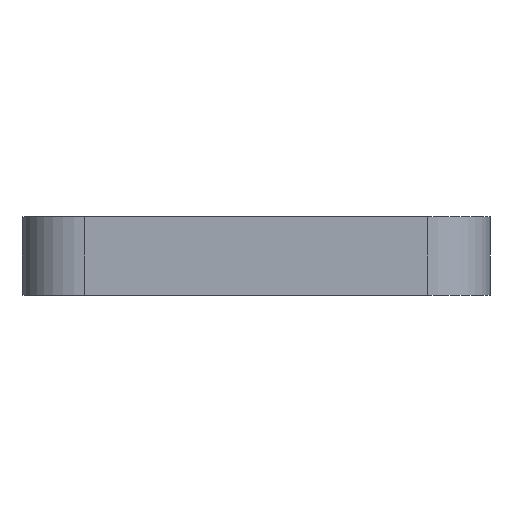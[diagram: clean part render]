
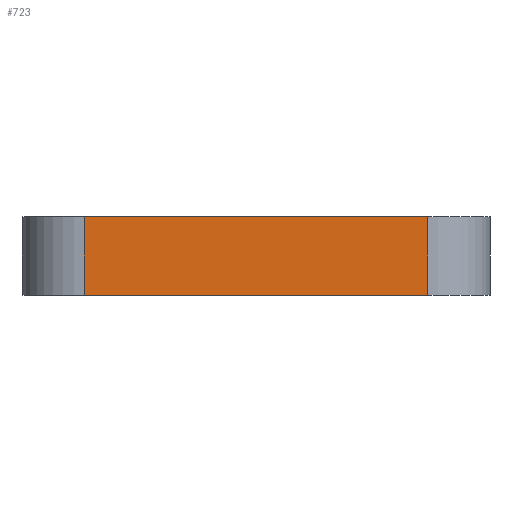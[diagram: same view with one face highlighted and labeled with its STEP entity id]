
A CAD part, front view. The second image highlights one B-rep face of the part: STEP entity #723.
In plain terms, the highlighted planar face has unit normal (0, -1, 0).
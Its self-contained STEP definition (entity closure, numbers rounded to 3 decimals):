
#124=CARTESIAN_POINT('',(-6.205,1.605,1.0));
#125=VERTEX_POINT('',#124);
#133=CARTESIAN_POINT('',(-1.805,1.605,1.0));
#134=VERTEX_POINT('',#133);
#135=CARTESIAN_POINT('',(-1.805,1.605,1.0));
#136=DIRECTION('',(-1.0,0.0,0.0));
#137=VECTOR('',#136,4.4);
#138=LINE('',#135,#137);
#139=EDGE_CURVE('',#134,#125,#138,.T.);
#314=CARTESIAN_POINT('',(-6.205,1.605,0.0));
#315=VERTEX_POINT('',#314);
#323=CARTESIAN_POINT('',(-6.205,1.605,0.0));
#324=DIRECTION('',(0.0,0.0,1.0));
#325=VECTOR('',#324,1.0);
#326=LINE('',#323,#325);
#327=EDGE_CURVE('',#315,#125,#326,.T.);
#688=CARTESIAN_POINT('',(-1.805,1.605,0.0));
#689=VERTEX_POINT('',#688);
#690=CARTESIAN_POINT('',(-1.805,1.605,0.0));
#691=DIRECTION('',(0.0,0.0,1.0));
#692=VECTOR('',#691,1.0);
#693=LINE('',#690,#692);
#694=EDGE_CURVE('',#689,#134,#693,.T.);
#707=CARTESIAN_POINT('',(-1.805,1.605,0.0));
#708=DIRECTION('',(0.0,-1.0,0.0));
#709=DIRECTION('',(0.0,0.0,-1.0));
#710=AXIS2_PLACEMENT_3D('',#707,#708,#709);
#711=PLANE('',#710);
#712=ORIENTED_EDGE('',*,*,#327,.F.);
#713=CARTESIAN_POINT('',(-6.205,1.605,0.0));
#714=DIRECTION('',(1.0,0.0,0.0));
#715=VECTOR('',#714,4.4);
#716=LINE('',#713,#715);
#717=EDGE_CURVE('',#315,#689,#716,.T.);
#718=ORIENTED_EDGE('',*,*,#717,.T.);
#719=ORIENTED_EDGE('',*,*,#694,.T.);
#720=ORIENTED_EDGE('',*,*,#139,.T.);
#721=EDGE_LOOP('',(#712,#718,#719,#720));
#722=FACE_OUTER_BOUND('',#721,.T.);
#723=ADVANCED_FACE('',(#722),#711,.T.);
